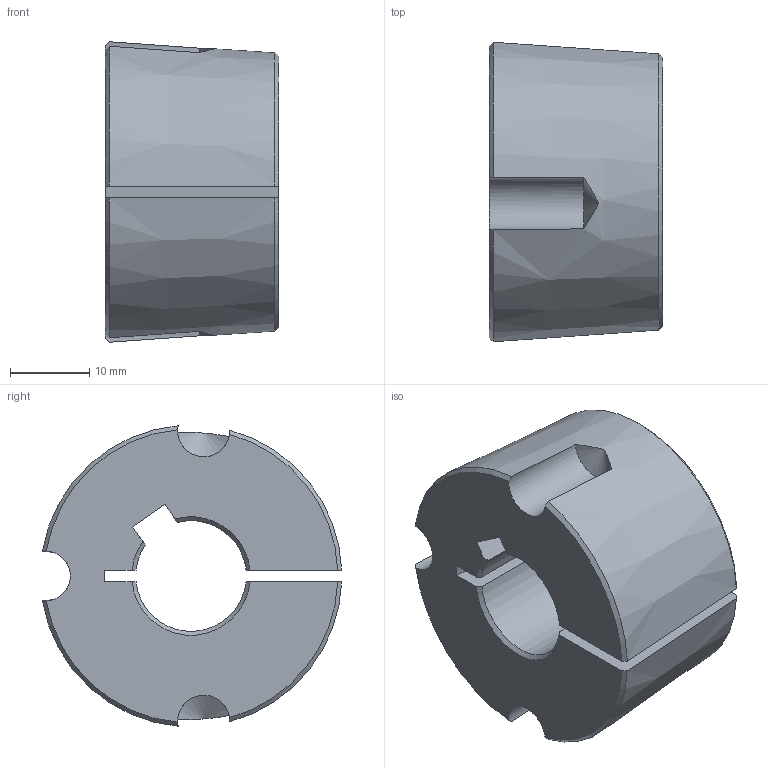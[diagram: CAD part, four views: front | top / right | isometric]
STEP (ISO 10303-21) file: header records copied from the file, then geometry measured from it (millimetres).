
FILE_DESCRIPTION(/* description */ (''),/* implementation_level */ '2;1');
FILE_NAME(/* name */ 'C:\Users\stagistaCAD\Desktop\Nuova cartella\29110814.stp',/* time_stamp */ '2018-06-27T11:47:51+02:00',/* author */ ('stagistacad'),/* organization */ (''),/* preprocessor_version */ 'ST-DEVELOPER v15.6',/* originating_system */ 'Autodesk Inventor 2015',/* authorisation */ '');
FILE_SCHEMA (('AUTOMOTIVE_DESIGN { 1 0 10303 214 3 1 1 }'));
Length unit declared in the file: millimetre
Products named in the file (1): 29110814
Bounding box: 22 x 37.89 x 38.03 mm (x, y, z)
Volume: 18317.2 mm3; surface area: 5998.8 mm2
Topology: 1 solids, 1 shells, 34 faces, 96 edges, 64 vertices
Faces by surface type: cone 16, plane 10, cylinder 8
Entity records: 1184 total; most frequent: CARTESIAN_POINT 315, ORIENTED_EDGE 192, DIRECTION 170, EDGE_CURVE 96, AXIS2_PLACEMENT_3D 69, VERTEX_POINT 64, FACE_OUTER_BOUND 34, EDGE_LOOP 34
